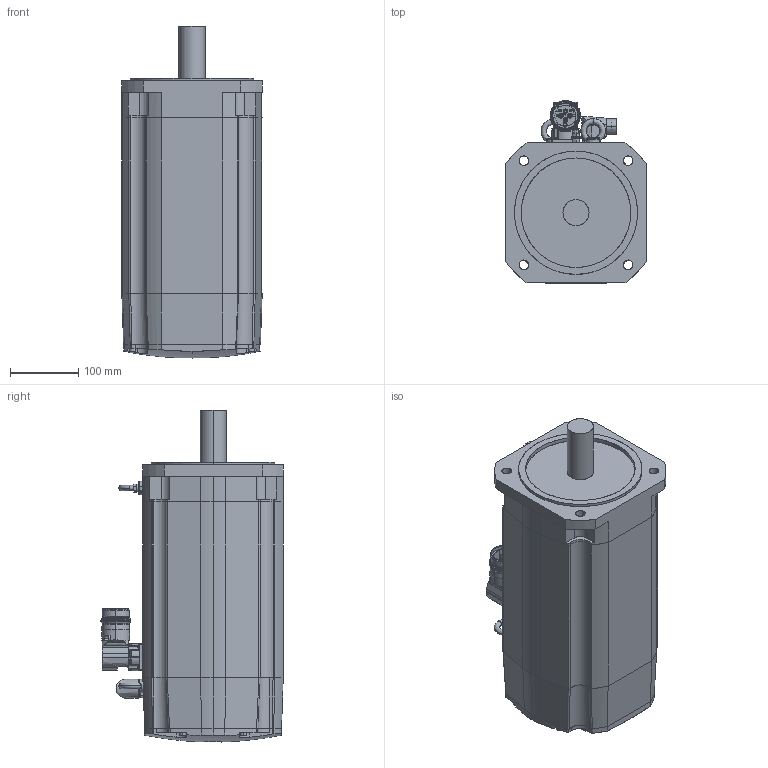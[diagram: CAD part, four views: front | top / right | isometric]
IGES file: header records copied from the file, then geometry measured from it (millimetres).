
Start section: SolidWorks IGES file using analytic representation for surfaces
Global section: file name: C:\PDM\SW-SAP\AA-IGES\SH32052x0xA2100.IGS; native system: SolidWorks 2010; preprocessor: SolidWorks 2010; author: SESA21951; date: 131129.141231; units: millimetre
Bounding box: 205 x 266.5 x 484.83 mm (x, y, z)
Surface area: 632315.3 mm2 (no closed solid volume)
Topology: 0 solids, 0 shells, 776 faces, 10342 edges, 10323 vertices
Faces by surface type: bspline 406, revolution 370
